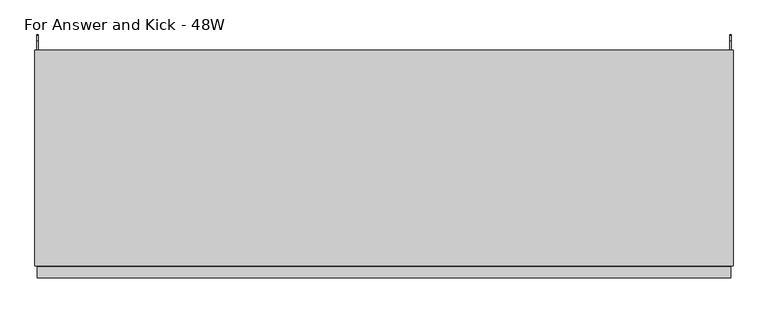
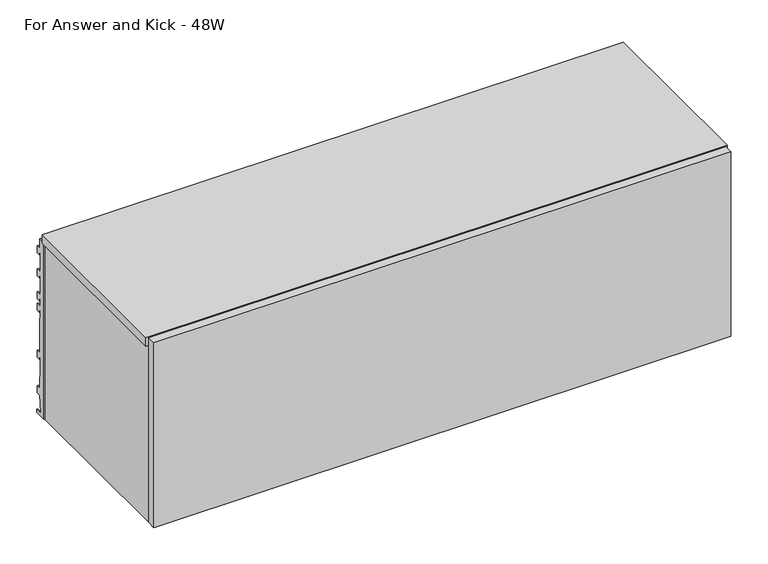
"""IFC4 building model written with IfcOpenShell, lengths in millimetres: furniture geometry, Steelcase - Universal Storage - Over the Case Bin - Flat Front : For Answer and Kick - 48W."""

from ifc_helpers import new_model, si_unit, frame, origin, place, context, project, spatial, polyline, outline, extrude, source, transform, mapped, element, save


def for_answer_and_kick_48w_cbfa6e4d(model_context):
    return source(origin(), model_context, "Body", "SweptSolid", [
        extrude(outline(polyline([(0.0, 1657.096), (15.428165, 1657.096), (15.428165, 1635.9725192), (24.6737648, 1635.9725192), (24.6737648, 1620.2499324), (17.7141651, 1620.2499324), (17.7141651, 1627.4034202), (15.428165, 1627.4034202), (13.3707653, 1623.8398995), (13.3707653, 1584.7332049), (24.4959651, 1584.7332049), (24.4959651, 1569.0106181), (17.7141651, 1569.0106181), (17.7141651, 1576.1734076), (15.428165, 1576.1734076), (13.3707653, 1572.6099624), (13.3707653, 1533.4938907), (24.6737648, 1533.4938907), (24.6737648, 1517.7713038), (17.5768, 1517.7713038), (17.5768, 1524.9340934), (15.4248855, 1524.9340934), (13.3349998, 1521.3219111), (13.3349998, 1508.4166423), (24.6737648, 1508.4166423), (24.6737648, 1492.6940555), (17.5768, 1492.6940555), (17.5768, 1499.856845), (15.4205129, 1499.856845), (13.3933344, 1496.3530466), (13.3933344, 1483.6530466), (15.428165, 1479.2893385), (15.428165, 1403.8551467), (24.6737648, 1403.8551467), (24.6737648, 1388.1325599), (17.7141651, 1388.1325599), (17.7141651, 1395.2982562), (15.428165, 1395.2982562), (13.3306079, 1391.6651808), (13.3306079, 1353.5651808), (15.428165, 1349.9321054), (15.428165, 1325.1000701), (24.6737648, 1325.1000701), (24.6737648, 1309.3774833), (17.7141651, 1309.3774833), (17.7141651, 1316.5328605), (15.428165, 1316.5328605), (15.428165, 1303.5355433), (13.2046809, 1299.684356), (13.2046809, 1282.9679719), (11.2879653, 1282.9679719), (11.2879653, 1271.9303504), (26.4009645, 1271.9303504), (26.4009645, 1265.428), (0.0, 1265.428), (0.0, 1657.096)])), frame((1213.6882, 0.0, 0.0), z_axis=(1.0, 0.0, 0.0), x_axis=(0.0, 1.0, 0.0)), (0.0, 0.0, 1.0), 1.905),
        extrude(outline(polyline([(0.0, 1657.096), (15.428165, 1657.096), (15.428165, 1635.9725192), (24.6737648, 1635.9725192), (24.6737648, 1620.2499324), (17.7141651, 1620.2499324), (17.7141651, 1627.4034202), (15.428165, 1627.4034202), (13.3707653, 1623.8398995), (13.3707653, 1584.7332049), (24.4959651, 1584.7332049), (24.4959651, 1569.0106181), (17.7141651, 1569.0106181), (17.7141651, 1576.1734076), (15.428165, 1576.1734076), (13.3707653, 1572.6099624), (13.3707653, 1533.4938907), (24.6737648, 1533.4938907), (24.6737648, 1517.7713038), (17.5768, 1517.7713038), (17.5768, 1524.9340934), (15.4248855, 1524.9340934), (13.3349998, 1521.3219111), (13.3349998, 1508.4166423), (24.6737648, 1508.4166423), (24.6737648, 1492.6940555), (17.5768, 1492.6940555), (17.5768, 1499.856845), (15.4205129, 1499.856845), (13.3933344, 1496.3530466), (13.3933344, 1483.6530466), (15.428165, 1479.2893385), (15.428165, 1403.8551467), (24.6737648, 1403.8551467), (24.6737648, 1388.1325599), (17.7141651, 1388.1325599), (17.7141651, 1395.2982562), (15.428165, 1395.2982562), (13.3306079, 1391.6651808), (13.3306079, 1353.5651808), (15.428165, 1349.9321054), (15.428165, 1325.1000701), (24.6737648, 1325.1000701), (24.6737648, 1309.3774833), (17.7141651, 1309.3774833), (17.7141651, 1316.5328605), (15.428165, 1316.5328605), (15.428165, 1303.5355433), (13.2046809, 1299.684356), (13.2046809, 1282.9679719), (11.2879653, 1282.9679719), (11.2879653, 1271.9303504), (26.4009645, 1271.9303504), (26.4009645, 1265.428), (0.0, 1265.428), (0.0, 1657.096)])), frame((3.6068, 0.0, 0.0), z_axis=(1.0, 0.0, 0.0), x_axis=(0.0, 1.0, 0.0)), (0.0, 0.0, 1.0), 1.905),
        extrude(outline(polyline([(4.4448587, -379.476), (1214.7703, -379.476), (1214.7703, -398.526), (4.4448587, -398.526), (4.4448587, -379.476)])), frame((0.0, 0.0, 1266.8226746), z_axis=(0.0, 0.0, 1.0), x_axis=(1.0, 0.0, 0.0)), (0.0, 0.0, 1.0), 409.5773254),
        extrude(outline(polyline([(1219.2, -377.213238), (0.0, -377.213238), (0.0, 0.0), (1219.2, 0.0), (1219.2, -377.213238)])), frame((0.0, 0.0, 1657.35), z_axis=(0.0, 0.0, 1.0), x_axis=(1.0, 0.0, 0.0)), (0.0, 0.0, 1.0), 19.05),
        extrude(outline(polyline([(15.875, -377.213238), (5.5118, -377.213238), (5.5118, 0.0), (15.875, 0.0), (15.875, -377.213238)])), frame((0.0, 0.0, 1265.428), z_axis=(0.0, 0.0, 1.0), x_axis=(1.0, 0.0, 0.0)), (0.0, 0.0, 1.0), 391.6679457),
        extrude(outline(polyline([(1218.0568665, -377.213238), (1203.325, -377.213238), (1203.325, 0.0), (1218.0568665, 0.0), (1218.0568665, -377.213238)])), frame((0.0, 0.0, 1265.428), z_axis=(0.0, 0.0, 1.0), x_axis=(1.0, 0.0, 0.0)), (0.0, 0.0, 1.0), 391.6679457),
        extrude(outline(polyline([(-35.4584098, 1372.819257), (-27.0763996, 1372.819257), (-27.0763996, 1360.1191601), (-33.4264117, 1360.1191601), (-33.4264117, 1323.1622589), (-27.0763996, 1323.1622589), (-27.0763996, 1265.428), (-35.4584098, 1265.428), (-35.4584098, 1293.054213), (-46.1263996, 1293.054213), (-46.1263996, 1268.1875622), (-59.9694137, 1268.1875622), (-59.9694137, 1294.8575912), (-332.8542818, 1294.8575912), (-332.8542818, 1268.1875622), (-377.3042823, 1268.1875622), (-377.3042823, 1310.7072052), (-35.4584098, 1310.7072052), (-35.4584098, 1372.819257)])), frame((15.875, 0.0, 0.0), z_axis=(1.0, 0.0, 0.0), x_axis=(0.0, 1.0, 0.0)), (0.0, 0.0, 1.0), 1187.45),
    ])


if __name__ == "__main__":
    model = new_model("IFC4")
    model_context = context("Model", 3, world=origin())
    ifc_project = project(units=[si_unit("LENGTHUNIT", "METRE", prefix="MILLI")], contexts=[model_context])
    site = spatial("IfcSite", under=ifc_project)
    building = spatial("IfcBuilding", under=site)
    placement = place(None, origin())
    for_answer_and_kick_48w_shape = for_answer_and_kick_48w_cbfa6e4d(model_context)
    element("IfcFurniture", 1, ObjectType="Steelcase - Universal Storage - Over the Case Bin - Flat Front : For Answer and Kick - 48W", at=placement, inside=building, context=model_context, shape_type="MappedRepresentation", body=[
        mapped(for_answer_and_kick_48w_shape, transform((0.0, 0.0, 0.0), x_axis=(1.0, 0.0, 0.0), y_axis=(0.0, 1.0, 0.0), z_axis=(0.0, 0.0, 1.0))),
    ])
    save(model, "model.ifc")
